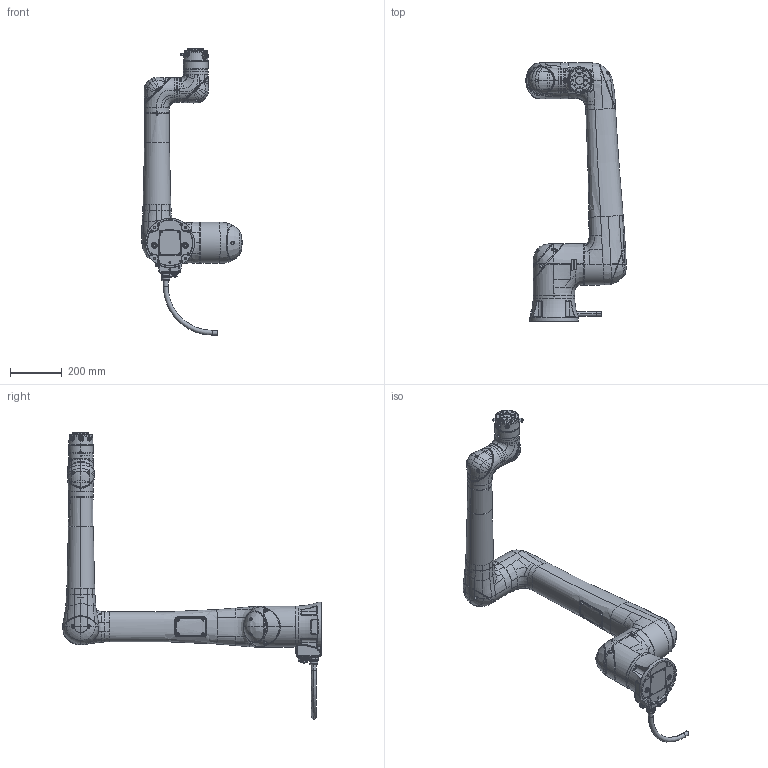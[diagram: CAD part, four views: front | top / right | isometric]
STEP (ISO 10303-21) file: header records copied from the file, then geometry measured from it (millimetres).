
FILE_DESCRIPTION(/* description */ ('AP214 STEP file'),/* implementation_level */ '2;1');
FILE_NAME(/* name */ '1300_model_air_asm_stp',/* time_stamp */ '2023-03-07T19:14:32+09:00',/* author */ (''),/* organization */ (''),/* preprocessor_version */ '7.2.1.0',/* originating_system */ 'Elysium Co. Ltd. STEP Translator',/* authorisation */ '');
FILE_SCHEMA (('AUTOMOTIVE_DESIGN'));
Products named in the file (8): 1300_MODEL_AIR-C001; 1300_MODEL-C002; 1300_MODEL-C003; 1300_MODEL-C004; 1300_MODEL-C005; 1300_MODEL-C006; 1300_MODEL_AIR-C007; 1300_MODEL_AIR_ASM
Assembly tree (7 placements, depth 2):
  1300_MODEL_AIR_ASM
    1300_MODEL_AIR-C001
    1300_MODEL-C002
    1300_MODEL-C003
    1300_MODEL-C004
    1300_MODEL-C005
    1300_MODEL-C006
    1300_MODEL_AIR-C007
Bounding box: 388.33 x 1000.07 x 1106.6 mm (x, y, z)
Volume: 28663643 mm3; surface area: 1188451.2 mm2
Topology: 7 solids, 7 shells, 4177 faces, 10008 edges, 6033 vertices
Faces by surface type: plane 1178, bspline 1074, cylinder 883, cone 420, torus 388, extrusion 142, sphere 80, revolution 12
Entity records: 182647 total; most frequent: CARTESIAN_POINT 100848, ORIENTED_EDGE 19960, EDGE_CURVE 9980, DIRECTION 9079, AXIS2_PLACEMENT_3D 6471, VERTEX_POINT 6033, EDGE_LOOP 4425, ADVANCED_FACE 4177
